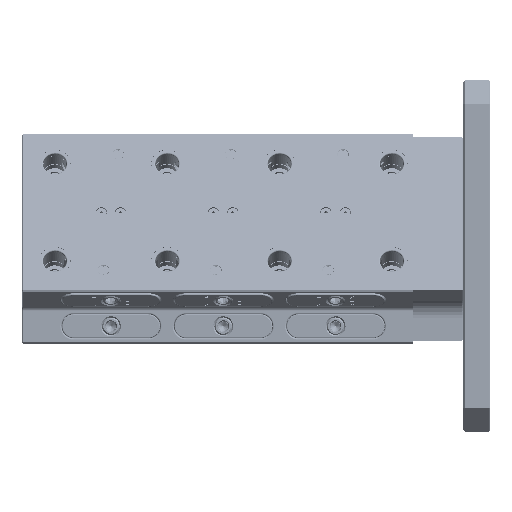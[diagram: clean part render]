
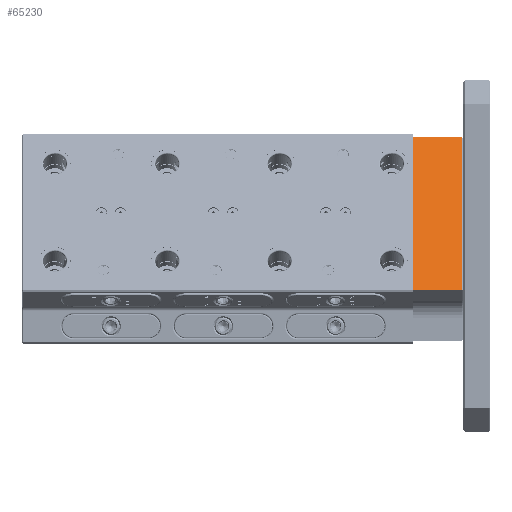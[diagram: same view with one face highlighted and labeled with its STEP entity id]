
A CAD part, left-side view. The second image highlights one B-rep face of the part: STEP entity #65230.
In plain terms, the highlighted planar face has unit normal (-0.866, 0, 0.5).
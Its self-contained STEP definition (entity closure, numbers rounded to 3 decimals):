
#871 = AXIS2_PLACEMENT_3D ( 'NONE', #22573, #60670, #28039 ) ;
#7426 = LINE ( 'NONE', #64862, #62038 ) ;
#9010 = VECTOR ( 'NONE', #56053, 1000. ) ;
#11802 = CARTESIAN_POINT ( 'NONE',  ( -100.511, 1.27, -29.104 ) ) ;
#12822 = ORIENTED_EDGE ( 'NONE', *, *, #13935, .T. ) ;
#13935 = EDGE_CURVE ( 'NONE', #15876, #50571, #41443, .T. ) ;
#14195 = LINE ( 'NONE', #65081, #68774 ) ;
#15876 = VERTEX_POINT ( 'NONE', #11802 ) ;
#18287 = VERTEX_POINT ( 'NONE', #20823 ) ;
#20823 = CARTESIAN_POINT ( 'NONE',  ( -100.511, 43.18, -29.104 ) ) ;
#22573 = CARTESIAN_POINT ( 'NONE',  ( -25.051, 43.18, 101.597 ) ) ;
#24335 = ORIENTED_EDGE ( 'NONE', *, *, #67100, .F. ) ;
#28039 = DIRECTION ( 'NONE',  ( 0.5, 0., 0.866 ) ) ;
#28665 = CARTESIAN_POINT ( 'NONE',  ( -25.051, 1.27, 101.597 ) ) ;
#31297 = CARTESIAN_POINT ( 'NONE',  ( -25.051, 1.27, 101.597 ) ) ;
#32508 = CARTESIAN_POINT ( 'NONE',  ( -25.051, 43.18, 101.597 ) ) ;
#38771 = FACE_OUTER_BOUND ( 'NONE', #44615, .T. ) ;
#41443 = LINE ( 'NONE', #28665, #9010 ) ;
#42754 = CARTESIAN_POINT ( 'NONE',  ( -25.051, 43.18, 101.597 ) ) ;
#44615 = EDGE_LOOP ( 'NONE', ( #47119, #12822, #24335, #56966 ) ) ;
#47119 = ORIENTED_EDGE ( 'NONE', *, *, #55634, .T. ) ;
#48877 = DIRECTION ( 'NONE',  ( 0., -1., 0. ) ) ;
#49452 = PLANE ( 'NONE',  #871 ) ;
#50571 = VERTEX_POINT ( 'NONE', #31297 ) ;
#50678 = EDGE_CURVE ( 'NONE', #58655, #18287, #7426, .T. ) ;
#54363 = DIRECTION ( 'NONE',  ( -0.5, 0., -0.866 ) ) ;
#54435 = DIRECTION ( 'NONE',  ( 0., -1., 0. ) ) ;
#55634 = EDGE_CURVE ( 'NONE', #18287, #15876, #14195, .T. ) ;
#56053 = DIRECTION ( 'NONE',  ( 0.5, 0., 0.866 ) ) ;
#56966 = ORIENTED_EDGE ( 'NONE', *, *, #50678, .T. ) ;
#58655 = VERTEX_POINT ( 'NONE', #42754 ) ;
#60670 = DIRECTION ( 'NONE',  ( -0.866, 0., 0.5 ) ) ;
#62038 = VECTOR ( 'NONE', #54363, 1000. ) ;
#64862 = CARTESIAN_POINT ( 'NONE',  ( -25.051, 43.18, 101.597 ) ) ;
#65081 = CARTESIAN_POINT ( 'NONE',  ( -100.511, 43.18, -29.104 ) ) ;
#65230 = ADVANCED_FACE ( 'NONE', ( #38771 ), #49452, .T. ) ;
#65802 = VECTOR ( 'NONE', #54435, 1000. ) ;
#67100 = EDGE_CURVE ( 'NONE', #58655, #50571, #67511, .T. ) ;
#67511 = LINE ( 'NONE', #32508, #65802 ) ;
#68774 = VECTOR ( 'NONE', #48877, 1000. ) ;
